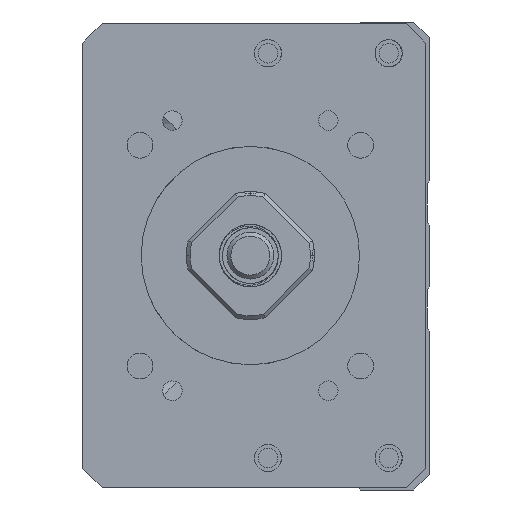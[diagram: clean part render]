
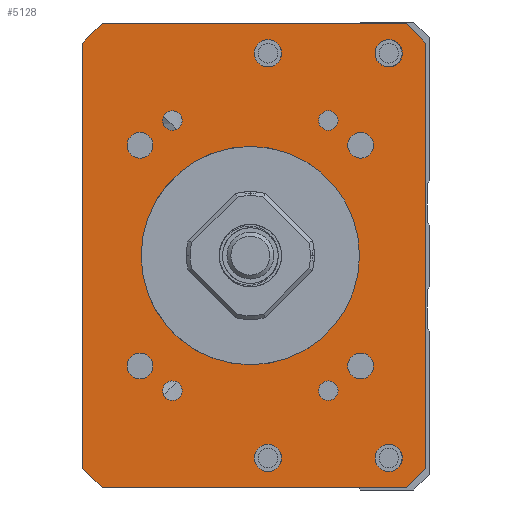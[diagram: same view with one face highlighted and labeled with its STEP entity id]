
A CAD part, left-side view. The second image highlights one B-rep face of the part: STEP entity #5128.
In plain terms, the highlighted planar face has unit normal (-1, 0, 0).
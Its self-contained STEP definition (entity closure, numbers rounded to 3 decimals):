
#4050=FACE_BOUND('',#6697,.T.);
#4051=FACE_BOUND('',#6698,.T.);
#4052=FACE_BOUND('',#6699,.T.);
#4053=FACE_BOUND('',#6700,.T.);
#4054=FACE_BOUND('',#6701,.T.);
#4055=FACE_BOUND('',#6702,.T.);
#4056=FACE_BOUND('',#6703,.T.);
#4057=FACE_BOUND('',#6704,.T.);
#4058=FACE_BOUND('',#6705,.T.);
#4059=FACE_BOUND('',#6706,.T.);
#4060=FACE_BOUND('',#6707,.T.);
#4061=FACE_BOUND('',#6708,.T.);
#4062=FACE_BOUND('',#6709,.T.);
#4063=FACE_BOUND('',#6710,.T.);
#4563=CIRCLE('',#14497,14.);
#4572=CIRCLE('',#14508,1.65);
#4573=CIRCLE('',#14509,1.65);
#4574=CIRCLE('',#14510,1.65);
#4575=CIRCLE('',#14511,1.65);
#4576=CIRCLE('',#14512,1.25);
#4577=CIRCLE('',#14513,1.75);
#4578=CIRCLE('',#14514,1.25);
#4579=CIRCLE('',#14515,1.75);
#4580=CIRCLE('',#14516,1.25);
#4581=CIRCLE('',#14517,1.75);
#4582=CIRCLE('',#14518,1.75);
#4583=CIRCLE('',#14519,1.25);
#5128=ADVANCED_FACE('',(#4050,#4051,#4052,#4053,#4054,#4055,#4056,#4057,
#4058,#4059,#4060,#4061,#4062,#4063),#5595,.F.);
#5595=PLANE('',#14520);
#6697=EDGE_LOOP('',(#9036));
#6698=EDGE_LOOP('',(#9037));
#6699=EDGE_LOOP('',(#9038));
#6700=EDGE_LOOP('',(#9039));
#6701=EDGE_LOOP('',(#9040));
#6702=EDGE_LOOP('',(#9041));
#6703=EDGE_LOOP('',(#9042));
#6704=EDGE_LOOP('',(#9043));
#6705=EDGE_LOOP('',(#9044));
#6706=EDGE_LOOP('',(#9045,#9046,#9047,#9048,#9049,#9050,#9051,#9052));
#6707=EDGE_LOOP('',(#9053));
#6708=EDGE_LOOP('',(#9054));
#6709=EDGE_LOOP('',(#9055));
#6710=EDGE_LOOP('',(#9056));
#9036=ORIENTED_EDGE('',*,*,#11763,.F.);
#9037=ORIENTED_EDGE('',*,*,#11764,.F.);
#9038=ORIENTED_EDGE('',*,*,#11765,.F.);
#9039=ORIENTED_EDGE('',*,*,#11766,.F.);
#9040=ORIENTED_EDGE('',*,*,#11767,.F.);
#9041=ORIENTED_EDGE('',*,*,#11768,.T.);
#9042=ORIENTED_EDGE('',*,*,#11769,.F.);
#9043=ORIENTED_EDGE('',*,*,#11770,.F.);
#9044=ORIENTED_EDGE('',*,*,#11771,.F.);
#9045=ORIENTED_EDGE('',*,*,#11760,.T.);
#9046=ORIENTED_EDGE('',*,*,#11772,.T.);
#9047=ORIENTED_EDGE('',*,*,#11773,.F.);
#9048=ORIENTED_EDGE('',*,*,#11774,.T.);
#9049=ORIENTED_EDGE('',*,*,#11775,.F.);
#9050=ORIENTED_EDGE('',*,*,#11776,.T.);
#9051=ORIENTED_EDGE('',*,*,#11777,.T.);
#9052=ORIENTED_EDGE('',*,*,#11778,.T.);
#9053=ORIENTED_EDGE('',*,*,#11779,.F.);
#9054=ORIENTED_EDGE('',*,*,#11780,.F.);
#9055=ORIENTED_EDGE('',*,*,#11781,.F.);
#9056=ORIENTED_EDGE('',*,*,#11740,.F.);
#10473=VERTEX_POINT('',#20145);
#10493=VERTEX_POINT('',#20221);
#10494=VERTEX_POINT('',#20223);
#10496=VERTEX_POINT('',#20229);
#10497=VERTEX_POINT('',#20231);
#10498=VERTEX_POINT('',#20233);
#10499=VERTEX_POINT('',#20235);
#10500=VERTEX_POINT('',#20237);
#10501=VERTEX_POINT('',#20239);
#10502=VERTEX_POINT('',#20241);
#10503=VERTEX_POINT('',#20243);
#10504=VERTEX_POINT('',#20245);
#10505=VERTEX_POINT('',#20247);
#10506=VERTEX_POINT('',#20249);
#10507=VERTEX_POINT('',#20251);
#10508=VERTEX_POINT('',#20253);
#10509=VERTEX_POINT('',#20255);
#10510=VERTEX_POINT('',#20257);
#10511=VERTEX_POINT('',#20260);
#10512=VERTEX_POINT('',#20262);
#10513=VERTEX_POINT('',#20264);
#11740=EDGE_CURVE('',#10473,#10473,#4563,.T.);
#11760=EDGE_CURVE('',#10494,#10493,#12814,.T.);
#11763=EDGE_CURVE('',#10496,#10496,#4572,.T.);
#11764=EDGE_CURVE('',#10497,#10497,#4573,.T.);
#11765=EDGE_CURVE('',#10498,#10498,#4574,.T.);
#11766=EDGE_CURVE('',#10499,#10499,#4575,.T.);
#11767=EDGE_CURVE('',#10500,#10500,#4576,.T.);
#11768=EDGE_CURVE('',#10501,#10501,#4577,.T.);
#11769=EDGE_CURVE('',#10502,#10502,#4578,.T.);
#11770=EDGE_CURVE('',#10503,#10503,#4579,.T.);
#11771=EDGE_CURVE('',#10504,#10504,#4580,.T.);
#11772=EDGE_CURVE('',#10493,#10505,#12816,.T.);
#11773=EDGE_CURVE('',#10506,#10505,#12817,.T.);
#11774=EDGE_CURVE('',#10506,#10507,#12818,.T.);
#11775=EDGE_CURVE('',#10508,#10507,#12819,.T.);
#11776=EDGE_CURVE('',#10508,#10509,#12820,.T.);
#11777=EDGE_CURVE('',#10509,#10510,#12821,.T.);
#11778=EDGE_CURVE('',#10510,#10494,#12822,.T.);
#11779=EDGE_CURVE('',#10511,#10511,#4581,.T.);
#11780=EDGE_CURVE('',#10512,#10512,#4582,.T.);
#11781=EDGE_CURVE('',#10513,#10513,#4583,.T.);
#12814=LINE('',#20222,#13653);
#12816=LINE('',#20246,#13655);
#12817=LINE('',#20248,#13656);
#12818=LINE('',#20250,#13657);
#12819=LINE('',#20252,#13658);
#12820=LINE('',#20254,#13659);
#12821=LINE('',#20256,#13660);
#12822=LINE('',#20258,#13661);
#13653=VECTOR('',#16931,1.);
#13655=VECTOR('',#16955,1.);
#13656=VECTOR('',#16956,1.);
#13657=VECTOR('',#16957,1.);
#13658=VECTOR('',#16958,1.);
#13659=VECTOR('',#16959,1.);
#13660=VECTOR('',#16960,1.);
#13661=VECTOR('',#16961,1.);
#14497=AXIS2_PLACEMENT_3D('',#20144,#16905,#16906);
#14508=AXIS2_PLACEMENT_3D('',#20228,#16937,#16938);
#14509=AXIS2_PLACEMENT_3D('',#20230,#16939,#16940);
#14510=AXIS2_PLACEMENT_3D('',#20232,#16941,#16942);
#14511=AXIS2_PLACEMENT_3D('',#20234,#16943,#16944);
#14512=AXIS2_PLACEMENT_3D('',#20236,#16945,#16946);
#14513=AXIS2_PLACEMENT_3D('',#20238,#16947,#16948);
#14514=AXIS2_PLACEMENT_3D('',#20240,#16949,#16950);
#14515=AXIS2_PLACEMENT_3D('',#20242,#16951,#16952);
#14516=AXIS2_PLACEMENT_3D('',#20244,#16953,#16954);
#14517=AXIS2_PLACEMENT_3D('',#20259,#16962,#16963);
#14518=AXIS2_PLACEMENT_3D('',#20261,#16964,#16965);
#14519=AXIS2_PLACEMENT_3D('',#20263,#16966,#16967);
#14520=AXIS2_PLACEMENT_3D('',#20265,#16968,#16969);
#16905=DIRECTION('',(-1.,0.,0.));
#16906=DIRECTION('',(0.,1.,0.));
#16931=DIRECTION('',(0.,0.,-1.));
#16937=DIRECTION('',(-1.,0.,0.));
#16938=DIRECTION('',(0.,0.,1.));
#16939=DIRECTION('',(-1.,0.,0.));
#16940=DIRECTION('',(0.,0.,1.));
#16941=DIRECTION('',(-1.,0.,0.));
#16942=DIRECTION('',(0.,0.,1.));
#16943=DIRECTION('',(-1.,0.,0.));
#16944=DIRECTION('',(0.,0.,1.));
#16945=DIRECTION('',(-1.,0.,0.));
#16946=DIRECTION('',(0.,1.,0.));
#16947=DIRECTION('',(1.,0.,0.));
#16948=DIRECTION('',(0.,0.,1.));
#16949=DIRECTION('',(-1.,0.,0.));
#16950=DIRECTION('',(0.,1.,0.));
#16951=DIRECTION('',(-1.,0.,0.));
#16952=DIRECTION('',(0.,0.,1.));
#16953=DIRECTION('',(-1.,0.,0.));
#16954=DIRECTION('',(0.,1.,0.));
#16955=DIRECTION('',(0.,-0.707,-0.707));
#16956=DIRECTION('',(0.,1.,0.));
#16957=DIRECTION('',(0.,-0.707,0.707));
#16958=DIRECTION('',(0.,0.,-1.));
#16959=DIRECTION('',(0.,0.707,0.707));
#16960=DIRECTION('',(0.,1.,0.));
#16961=DIRECTION('',(0.,0.707,-0.707));
#16962=DIRECTION('',(-1.,0.,0.));
#16963=DIRECTION('',(0.,0.,1.));
#16964=DIRECTION('',(-1.,0.,0.));
#16965=DIRECTION('',(0.,0.,1.));
#16966=DIRECTION('',(-1.,0.,0.));
#16967=DIRECTION('',(0.,1.,0.));
#16968=DIRECTION('',(1.,0.,0.));
#16969=DIRECTION('',(0.,1.,0.));
#20144=CARTESIAN_POINT('',(-211.,0.,-400.));
#20145=CARTESIAN_POINT('',(-211.,14.,-400.));
#20221=CARTESIAN_POINT('',(-211.,21.499,-427.25));
#20222=CARTESIAN_POINT('',(-211.,21.499,-370.25));
#20223=CARTESIAN_POINT('',(-211.,21.499,-372.75));
#20228=CARTESIAN_POINT('',(-211.,14.142,-385.858));
#20229=CARTESIAN_POINT('',(-211.,14.142,-384.208));
#20230=CARTESIAN_POINT('',(-211.,-14.142,-385.858));
#20231=CARTESIAN_POINT('',(-211.,-14.142,-384.208));
#20232=CARTESIAN_POINT('',(-211.,14.142,-414.142));
#20233=CARTESIAN_POINT('',(-211.,14.142,-412.492));
#20234=CARTESIAN_POINT('',(-211.,-14.142,-414.142));
#20235=CARTESIAN_POINT('',(-211.,-14.142,-412.492));
#20236=CARTESIAN_POINT('',(-211.,-10.,-417.321));
#20237=CARTESIAN_POINT('',(-211.,-8.75,-417.321));
#20238=CARTESIAN_POINT('',(-211.,-2.25,-425.936));
#20239=CARTESIAN_POINT('',(-211.,-2.25,-424.186));
#20240=CARTESIAN_POINT('',(-211.,10.,-382.679));
#20241=CARTESIAN_POINT('',(-211.,11.25,-382.679));
#20242=CARTESIAN_POINT('',(-211.,-2.25,-374.064));
#20243=CARTESIAN_POINT('',(-211.,-2.25,-372.314));
#20244=CARTESIAN_POINT('',(-211.,10.,-417.321));
#20245=CARTESIAN_POINT('',(-211.,11.25,-417.321));
#20246=CARTESIAN_POINT('',(-211.,18.999,-429.75));
#20247=CARTESIAN_POINT('',(-211.,18.999,-429.75));
#20248=CARTESIAN_POINT('',(-211.,-22.501,-429.75));
#20249=CARTESIAN_POINT('',(-211.,-20.001,-429.75));
#20250=CARTESIAN_POINT('',(-211.,-22.501,-427.25));
#20251=CARTESIAN_POINT('',(-211.,-22.501,-427.25));
#20252=CARTESIAN_POINT('',(-211.,-22.501,-370.25));
#20253=CARTESIAN_POINT('',(-211.,-22.501,-372.75));
#20254=CARTESIAN_POINT('',(-211.,-22.501,-372.75));
#20255=CARTESIAN_POINT('',(-211.,-20.001,-370.25));
#20256=CARTESIAN_POINT('',(-211.,-22.501,-370.25));
#20257=CARTESIAN_POINT('',(-211.,18.999,-370.25));
#20258=CARTESIAN_POINT('',(-211.,18.999,-370.25));
#20259=CARTESIAN_POINT('',(-211.,-17.75,-374.064));
#20260=CARTESIAN_POINT('',(-211.,-17.75,-372.314));
#20261=CARTESIAN_POINT('',(-211.,-17.75,-425.936));
#20262=CARTESIAN_POINT('',(-211.,-17.75,-424.186));
#20263=CARTESIAN_POINT('',(-211.,-10.,-382.679));
#20264=CARTESIAN_POINT('',(-211.,-8.75,-382.679));
#20265=CARTESIAN_POINT('',(-211.,-22.501,-370.25));
